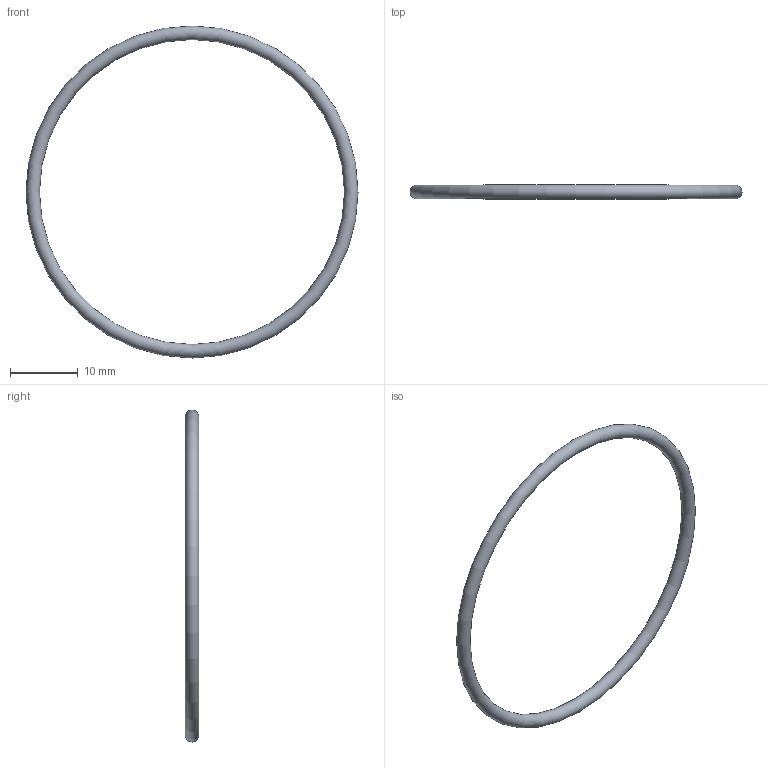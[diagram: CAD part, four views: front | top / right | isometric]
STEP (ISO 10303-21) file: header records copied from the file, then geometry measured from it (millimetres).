
FILE_DESCRIPTION( ( 'STEP AP203' ), '1' );
FILE_NAME( 'C:/Temp/Ganter_Step_05_03_2020/data/3_5/or638/O-Ring OR638-45.00-2.00-70.stp', '2020-03-12T13:44:23', ( 'License CC BY-ND 4.0' ), ( 'CADENAS' ), ' ', 'PARTsolutions', ' ' );
FILE_SCHEMA( ( 'CONFIG_CONTROL_DESIGN' ) );
Length unit declared in the file: millimetre
Products named in the file (1): _O-Ring OR638-45.00-2.00-70
Bounding box: 49 x 2 x 49 mm (x, y, z)
Volume: 463.9 mm3; surface area: 927.7 mm2
Topology: 1 solids, 1 shells, 1 faces, 2 edges, 1 vertices
Faces by surface type: torus 1
Entity records: 62 total; most frequent: CC_DESIGN_PERSON_AND_ORGANIZATION_ASSIGNMENT 5, PERSON_AND_ORGANIZATION_ROLE 4, DIRECTION 4, CARTESIAN_POINT 3, DATE_TIME_ROLE 2, CC_DESIGN_DATE_AND_TIME_ASSIGNMENT 2, AXIS2_PLACEMENT_3D 2, DIMENSIONAL_EXPONENTS 2
